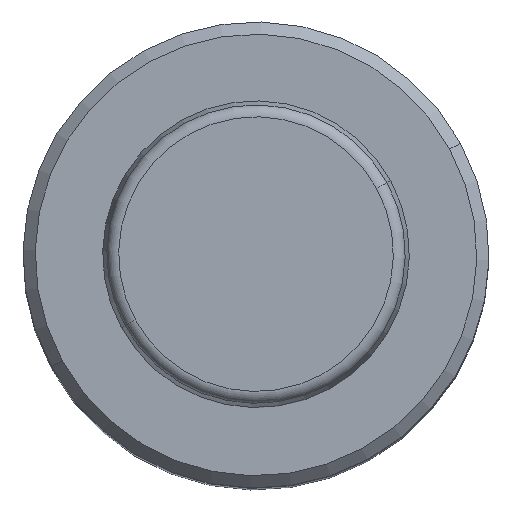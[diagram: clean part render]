
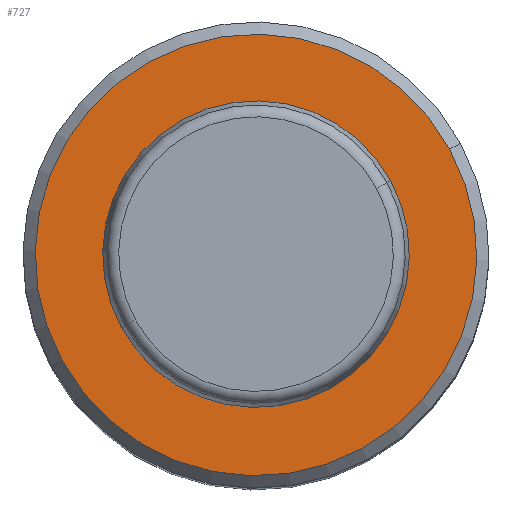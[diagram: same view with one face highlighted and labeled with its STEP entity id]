
A CAD part, top view. The second image highlights one B-rep face of the part: STEP entity #727.
In plain terms, the highlighted planar face has unit normal (0, 0, 1).
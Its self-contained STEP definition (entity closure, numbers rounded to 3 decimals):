
#499=CARTESIAN_POINT('Axis2P3D Location',(0.,0.,96.)) ;
#503=CARTESIAN_POINT('Vertex',(15.796,8.63,96.)) ;
#505=CARTESIAN_POINT('Vertex',(-15.796,-8.63,96.)) ;
#534=CARTESIAN_POINT('Axis2P3D Location',(0.,0.,96.)) ;
#718=CARTESIAN_POINT('Axis2P3D Location',(18.,0.,96.)) ;
#500=DIRECTION('Axis2P3D Direction',(0.,0.,-1.)) ;
#535=DIRECTION('Axis2P3D Direction',(0.,0.,-1.)) ;
#719=DIRECTION('Axis2P3D Direction',(0.,0.,1.)) ;
#720=DIRECTION('Axis2P3D XDirection',(1.,0.,0.)) ;
#501=AXIS2_PLACEMENT_3D('Circle Axis2P3D',#499,#500,$) ;
#536=AXIS2_PLACEMENT_3D('Circle Axis2P3D',#534,#535,$) ;
#721=AXIS2_PLACEMENT_3D('Plane Axis2P3D',#718,#719,#720) ;
#724=ORIENTED_EDGE('',*,*,#507,.T.) ;
#725=ORIENTED_EDGE('',*,*,#538,.T.) ;
#727=ADVANCED_FACE('',(#726),#722,.T.) ;
#502=CIRCLE('generated circle',#501,18.) ;
#537=CIRCLE('generated circle',#536,18.) ;
#507=EDGE_CURVE('',#504,#506,#502,.F.) ;
#538=EDGE_CURVE('',#506,#504,#537,.F.) ;
#723=EDGE_LOOP('',(#724,#725)) ;
#726=FACE_OUTER_BOUND('',#723,.T.) ;
#722=PLANE('Plane',#721) ;
#504=VERTEX_POINT('',#503) ;
#506=VERTEX_POINT('',#505) ;
